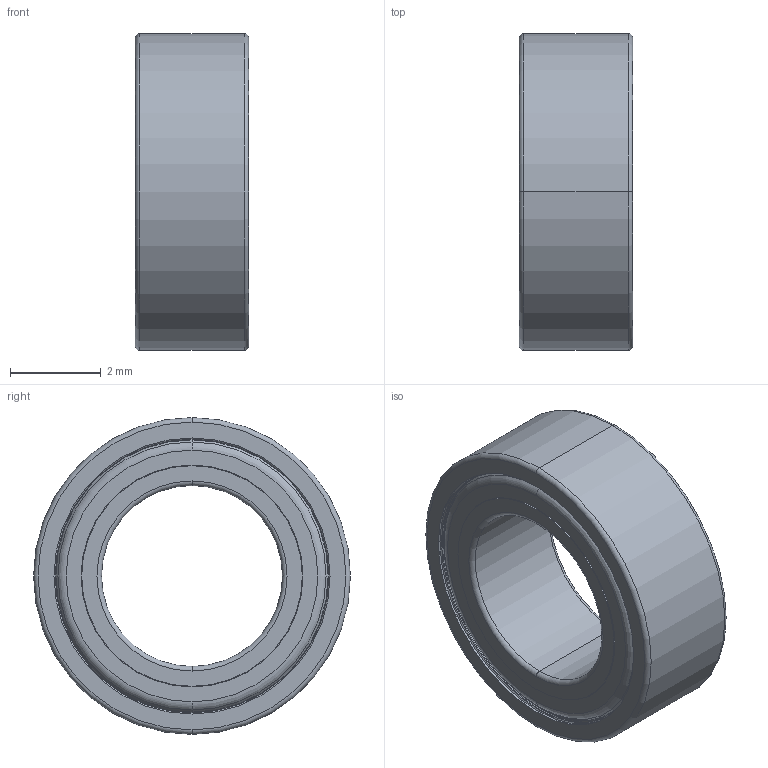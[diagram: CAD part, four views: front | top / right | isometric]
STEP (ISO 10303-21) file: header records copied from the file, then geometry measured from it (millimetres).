
FILE_DESCRIPTION((''),'2;1');
FILE_NAME('MR74ZZ-EA009','2025-12-19T16:48:51',('qinghui.yi'),(''),'CREO PARAMETRIC BY PTC INC, 2019164','CREO PARAMETRIC BY PTC INC, 2019164','');
FILE_SCHEMA(('CONFIG_CONTROL_DESIGN','SHAPE_APPEARANCE_LAYERS_GROUPS'));
Length unit declared in the file: millimetre
Products named in the file (1): MR74ZZ-EA009
Bounding box: 2.5 x 7 x 7 mm (x, y, z)
Volume: 40.8 mm3; surface area: 253.4 mm2
Topology: 2 solids, 2 shells, 88 faces, 180 edges, 106 vertices
Faces by surface type: torus 34, cylinder 24, cone 16, plane 14
Entity records: 2595 total; most frequent: DIRECTION 496, CARTESIAN_POINT 374, ORIENTED_EDGE 360, AXIS2_PLACEMENT_3D 228, COLOUR_RGB 196, EDGE_CURVE 180, CIRCLE 140, VERTEX_POINT 106
